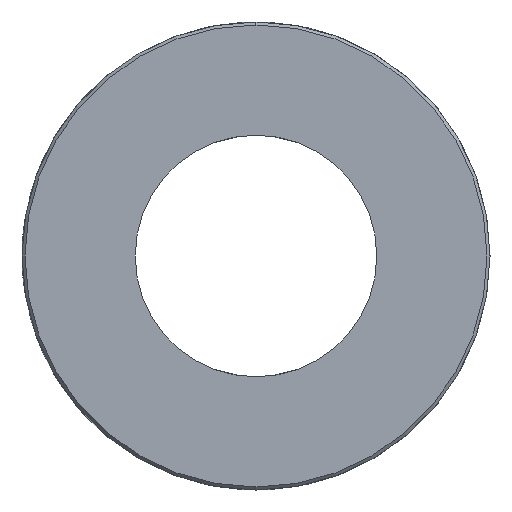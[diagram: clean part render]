
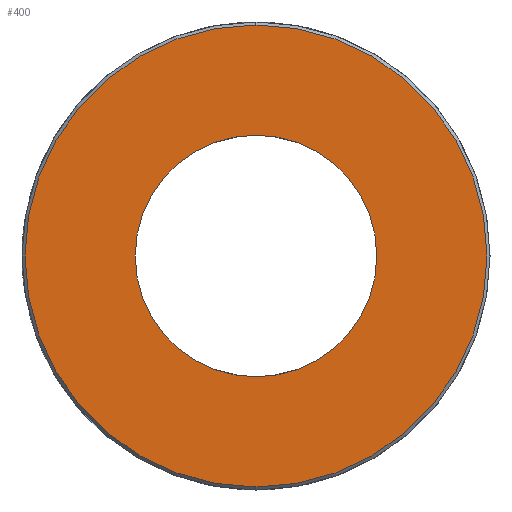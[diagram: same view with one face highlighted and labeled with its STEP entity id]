
A CAD part, left-side view. The second image highlights one B-rep face of the part: STEP entity #400.
In plain terms, the highlighted planar face has unit normal (-1, 0, 0) as drawn and (0, 0, 1) by its records, which use the part's own axes.
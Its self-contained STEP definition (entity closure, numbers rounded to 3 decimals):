
#5 = PLANE ( 'NONE',  #1349 ) ;
#22 = EDGE_CURVE ( 'NONE', #808, #388, #923, .T. ) ;
#67 = AXIS2_PLACEMENT_3D ( 'NONE', #1338, #856, #1487 ) ;
#131 = VERTEX_POINT ( 'NONE', #398 ) ;
#153 = EDGE_CURVE ( 'NONE', #131, #1071, #852, .T. ) ;
#186 = DIRECTION ( 'NONE',  ( 1., 0., 0. ) ) ;
#369 = ORIENTED_EDGE ( 'NONE', *, *, #22, .F. ) ;
#388 = VERTEX_POINT ( 'NONE', #778 ) ;
#398 = CARTESIAN_POINT ( 'NONE',  ( 15.3, 0., 5.5 ) ) ;
#400 = ADVANCED_FACE ( 'NONE', ( #608, #1404 ), #5, .T. ) ;
#425 = CARTESIAN_POINT ( 'NONE',  ( -8., 0., 5.5 ) ) ;
#453 = DIRECTION ( 'NONE',  ( 0., 0., 1. ) ) ;
#479 = DIRECTION ( 'NONE',  ( 0., 0., 1. ) ) ;
#569 = ORIENTED_EDGE ( 'NONE', *, *, #153, .T. ) ;
#608 = FACE_OUTER_BOUND ( 'NONE', #1706, .T. ) ;
#685 = CIRCLE ( 'NONE', #1667, 15.3 ) ;
#711 = ORIENTED_EDGE ( 'NONE', *, *, #1058, .T. ) ;
#778 = CARTESIAN_POINT ( 'NONE',  ( 8., 0., 5.5 ) ) ;
#808 = VERTEX_POINT ( 'NONE', #425 ) ;
#832 = DIRECTION ( 'NONE',  ( 1., 0., 0. ) ) ;
#852 = CIRCLE ( 'NONE', #67, 15.3 ) ;
#856 = DIRECTION ( 'NONE',  ( 0., 0., 1. ) ) ;
#923 = CIRCLE ( 'NONE', #1344, 8. ) ;
#940 = CARTESIAN_POINT ( 'NONE',  ( 0., 0., 5.5 ) ) ;
#973 = CARTESIAN_POINT ( 'NONE',  ( 0., 0., 5.5 ) ) ;
#1014 = CARTESIAN_POINT ( 'NONE',  ( -15.3, 0., 5.5 ) ) ;
#1058 = EDGE_CURVE ( 'NONE', #1071, #131, #685, .T. ) ;
#1071 = VERTEX_POINT ( 'NONE', #1014 ) ;
#1097 = DIRECTION ( 'NONE',  ( 1., 0., 0. ) ) ;
#1110 = EDGE_LOOP ( 'NONE', ( #369, #1561 ) ) ;
#1128 = EDGE_CURVE ( 'NONE', #388, #808, #1248, .T. ) ;
#1242 = CARTESIAN_POINT ( 'NONE',  ( 0., 0., 5.5 ) ) ;
#1248 = CIRCLE ( 'NONE', #1508, 8. ) ;
#1302 = DIRECTION ( 'NONE',  ( 0., 0., 1. ) ) ;
#1338 = CARTESIAN_POINT ( 'NONE',  ( 0., 0., 5.5 ) ) ;
#1344 = AXIS2_PLACEMENT_3D ( 'NONE', #973, #1420, #186 ) ;
#1349 = AXIS2_PLACEMENT_3D ( 'NONE', #1242, #453, #1097 ) ;
#1404 = FACE_BOUND ( 'NONE', #1110, .T. ) ;
#1420 = DIRECTION ( 'NONE',  ( 0., 0., 1. ) ) ;
#1471 = CARTESIAN_POINT ( 'NONE',  ( 0., 0., 5.5 ) ) ;
#1487 = DIRECTION ( 'NONE',  ( 1., 0., 0. ) ) ;
#1508 = AXIS2_PLACEMENT_3D ( 'NONE', #1471, #1302, #832 ) ;
#1561 = ORIENTED_EDGE ( 'NONE', *, *, #1128, .F. ) ;
#1667 = AXIS2_PLACEMENT_3D ( 'NONE', #940, #479, #1731 ) ;
#1706 = EDGE_LOOP ( 'NONE', ( #711, #569 ) ) ;
#1731 = DIRECTION ( 'NONE',  ( 1., 0., 0. ) ) ;
